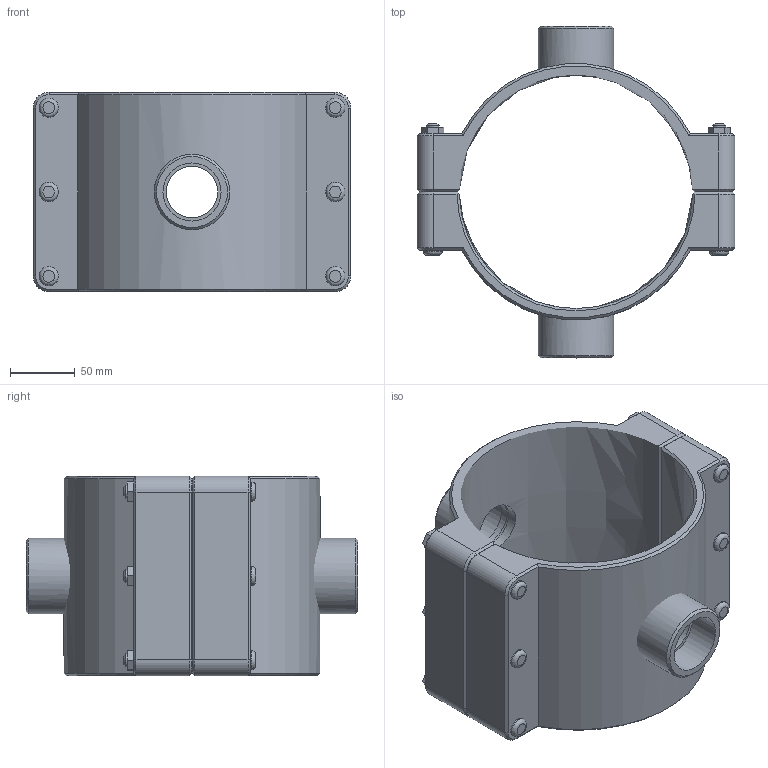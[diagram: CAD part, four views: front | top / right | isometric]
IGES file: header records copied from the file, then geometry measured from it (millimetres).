
Global section: file name: 161760180015_161860180015.ipt; native system: Autodesk Inventor 2015; preprocessor: unknown; author: KIM; date: 20170618.093829; units: millimetre
Bounding box: 245 x 256 x 154 mm (x, y, z)
Volume: 1616337.2 mm3; surface area: 260620.9 mm2
Topology: 3 solids, 3 shells, 179 faces, 416 edges, 265 vertices
Faces by surface type: plane 102, cylinder 30, cone 28, revolution 19
Full cylindrical faces by diameter (mm): 10 x6, 15 x12, 58.298 x2
